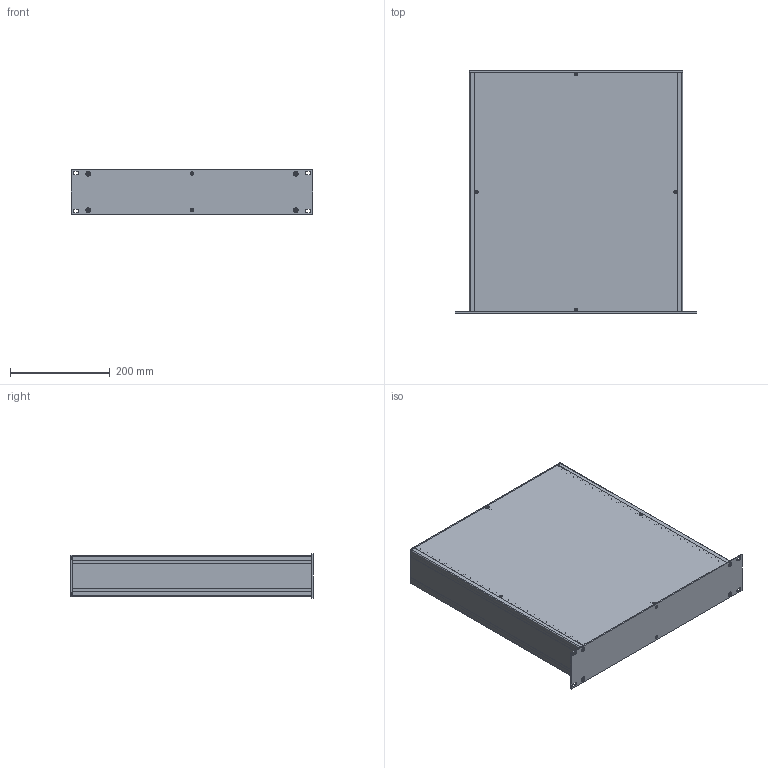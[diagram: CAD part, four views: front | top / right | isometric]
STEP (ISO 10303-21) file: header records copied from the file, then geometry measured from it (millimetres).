
FILE_DESCRIPTION(/* description */ (''),/* implementation_level */ '2;1');
FILE_NAME(/* name */ '//diskstation/Kunden/Gehäuse/Gehäuse/2HE/step/Zoll 2HE Rack Gehäuse Tiefe-480.step',/* time_stamp */ '2022-02-17T15:35:36+01:00',/* author */ (''),/* organization */ (''),/* preprocessor_version */ 'ST-DEVELOPER v18.1',/* originating_system */ 'Autodesk Translation Framework v10.10.0.1391',/* authorisation */ '');
FILE_SCHEMA (('AUTOMOTIVE_DESIGN { 1 0 10303 214 3 1 1 }'));
Length unit declared in the file: millimetre
Products named in the file (28): 2HE Gehäuse mit parametern; Gehäuse; Gehäuseprofil 1 unten links; Gehäuseprofil 2 oben rechts; Gehäuseprofil 1 unten rechts; Gehäuseprofil 2 oben links; Rückplatte; Deckel; Seitenteil links; Seitenteil rechts; Bodenplatte; Montageklotz Front/Deckel; Montageklotz Front/Boden; Montageklotz Rück/Deckel; Montageklotz Rück/Boden; Gewindestreifen; Frontplatte; Schrauben M5; Schraube Front; Schraube Front (1); Schraube Front (2); Schraube Front (3); Schraube Rück (1); Schraube Rück; Schraube Rück (2); Schraube Rück (3); Schrauben M3; HI_Senkschraube DIN 965 A v2 M3x5 24677.030.005(High)
Assembly tree (37 placements, depth 3):
  2HE Gehäuse mit parametern
    Gehäuse
      Gehäuseprofil 1 unten links
      Gehäuseprofil 2 oben rechts
      Gehäuseprofil 1 unten rechts
      Gehäuseprofil 2 oben links
      Rückplatte
      Deckel
      Seitenteil links
      Seitenteil rechts
      Bodenplatte
      Montageklotz Front/Deckel
      Montageklotz Front/Boden
      Montageklotz Rück/Deckel
      Montageklotz Rück/Boden
      Gewindestreifen  x2
    Frontplatte
    Schrauben M5
      Schraube Front
      Schraube Front (1)
      Schraube Front (2)
      Schraube Front (3)
      Schraube Rück (1)
      Schraube Rück
      Schraube Rück (2)
      Schraube Rück (3)
    Schrauben M3
      HI_Senkschraube DIN 965 A v2 M3x5 24677.030.005(High)  x10
Bounding box: 483 x 488.2 x 88.1 mm (x, y, z)
Volume: 1416586.7 mm3; surface area: 1271800.1 mm2
Topology: 34 solids, 34 shells, 944 faces, 2346 edges, 1470 vertices
Faces by surface type: cylinder 422, plane 342, cone 164, torus 8, bspline 8
Full cylindrical faces by diameter (mm): 2.529 x180, 3 x10, 3.2 x10, 4.234 x40, 5 x8, 5.2 x8, 5.3 x4, 5.6 x10, 9.5 x8
Entity records: 18600 total; most frequent: CARTESIAN_POINT 3348, DIRECTION 3135, ORIENTED_EDGE 2760, EDGE_CURVE 1380, AXIS2_PLACEMENT_3D 1195, VERTEX_POINT 868, EDGE_LOOP 866, LINE 745
